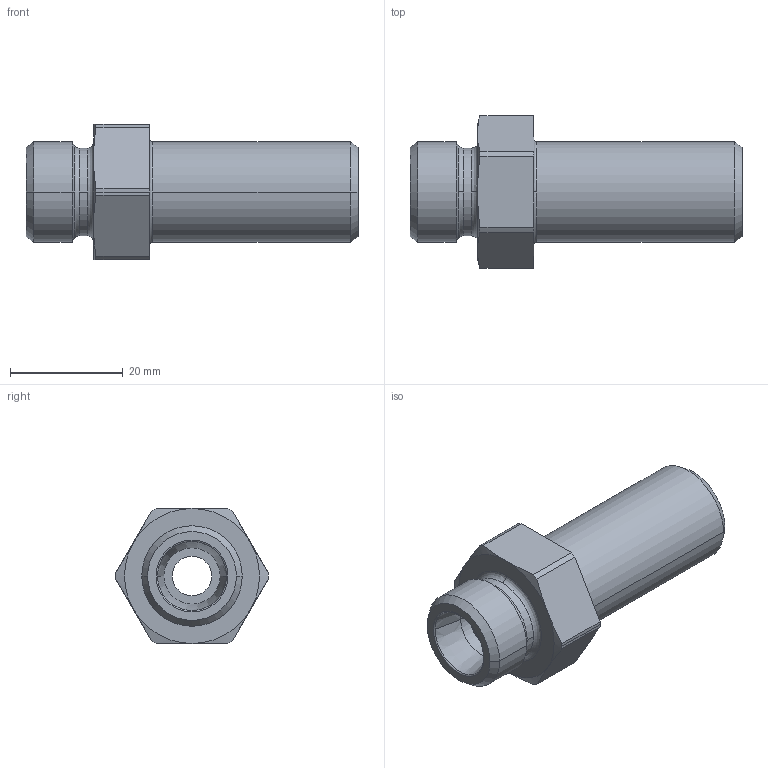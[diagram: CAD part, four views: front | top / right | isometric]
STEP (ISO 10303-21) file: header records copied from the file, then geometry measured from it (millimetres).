
FILE_DESCRIPTION((''),'2;1');
FILE_NAME('103616.stp','2007-10-31T11:39:01',(''),(''),'AutoCAD STEP 2000i','AutoCAD 2000i',', , ');
FILE_SCHEMA(('CONFIG_CONTROL_DESIGN'));
Length unit declared in the file: millimetre
Products named in the file (2): 103616.0; CHIAVE SMUSSX1036#0
Assembly tree (1 placements, depth 2):
  103616.0
    CHIAVE SMUSSX1036#0
Bounding box: 59 x 27.1 x 24 mm (x, y, z)
Volume: 13865.2 mm3; surface area: 5829.8 mm2
Topology: 1 solids, 1 shells, 58 faces, 144 edges, 92 vertices
Faces by surface type: cylinder 20, cone 16, plane 12, bspline 6, torus 4
Entity records: 2103 total; most frequent: CARTESIAN_POINT 584, DIRECTION 330, ORIENTED_EDGE 288, AXIS2_PLACEMENT_3D 144, EDGE_CURVE 144, VERTEX_POINT 92, CIRCLE 90, EDGE_LOOP 64
